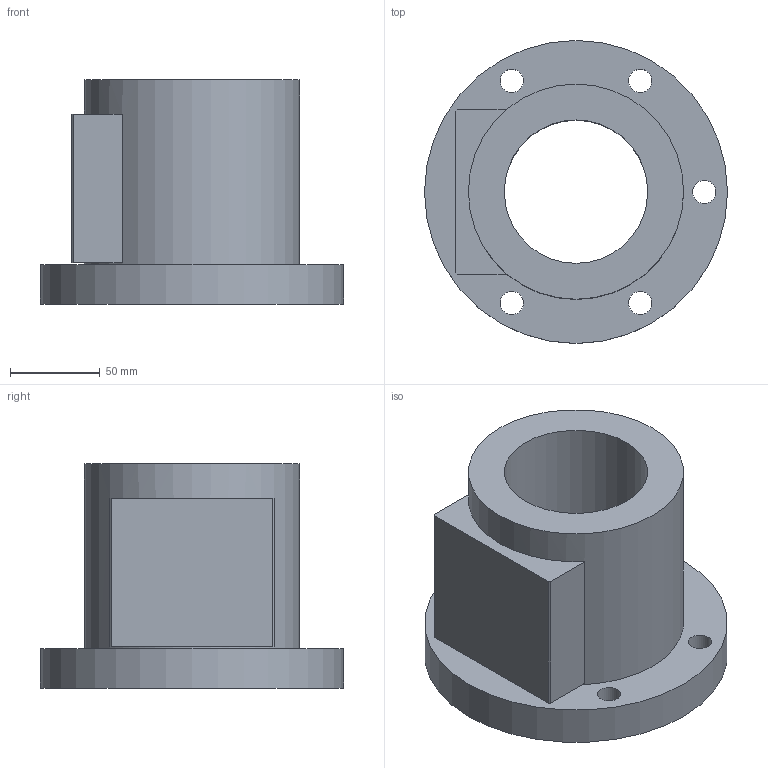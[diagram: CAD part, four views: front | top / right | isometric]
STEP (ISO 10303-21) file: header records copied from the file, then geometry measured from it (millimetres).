
FILE_DESCRIPTION(/* description */ (''),/* implementation_level */ '2;1');
FILE_NAME(/* name */ '80-12B2',/* time_stamp */ '2006-07-31T13:05:30+08:00',/* author */ (''),/* organization */ (''),/* preprocessor_version */ 'ST-DEVELOPER v9',/* originating_system */ 'UGS - NX 4.0',/* authorisation */ '');
FILE_SCHEMA (('CONFIG_CONTROL_DESIGN'));
Length unit declared in the file: millimetre
Products named in the file (1): 80-12B2
Bounding box: 169 x 169 x 125 mm (x, y, z)
Volume: 1107081.1 mm3; surface area: 127479 mm2
Topology: 1 solids, 1 shells, 30 faces, 67 edges, 46 vertices
Faces by surface type: plane 17, cylinder 13
Full cylindrical faces by diameter (mm): 13 x5, 20 x5, 80 x1, 120 x1, 169 x1
Entity records: 860 total; most frequent: DIRECTION 140, CARTESIAN_POINT 123, ORIENTED_EDGE 100, EDGE_LOOP 62, AXIS2_PLACEMENT_3D 59, EDGE_CURVE 50, FACE_BOUND 45, VERTEX_POINT 42
